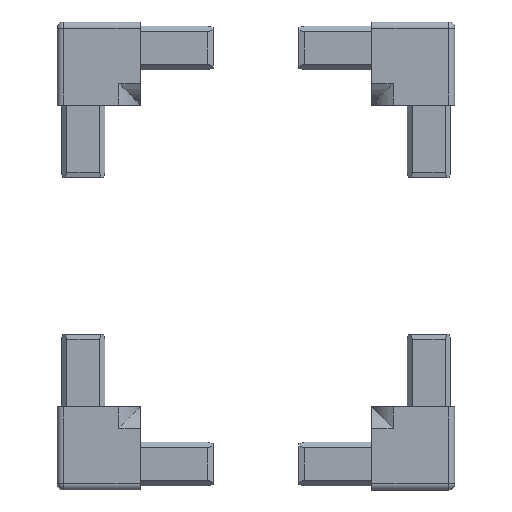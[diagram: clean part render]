
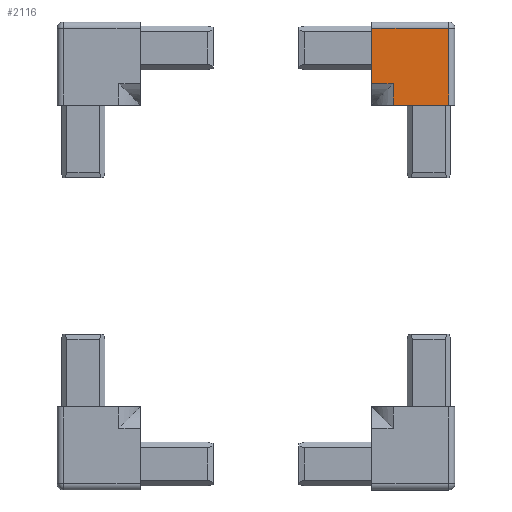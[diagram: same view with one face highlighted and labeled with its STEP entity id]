
A CAD part, left-side view. The second image highlights one B-rep face of the part: STEP entity #2116.
In plain terms, the highlighted planar face has unit normal (-1, 0, 0) as drawn and (0, 0, -1) by its records, which use the part's own axes.
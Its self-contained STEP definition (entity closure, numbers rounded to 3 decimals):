
#41 = CARTESIAN_POINT ( 'NONE',  ( -17.218, -27.5, -12.5 ) ) ;
#80 = VECTOR ( 'NONE', #2695, 1000. ) ;
#222 = DIRECTION ( 'NONE',  ( 0., -1., 0. ) ) ;
#283 = VERTEX_POINT ( 'NONE', #441 ) ;
#395 = VERTEX_POINT ( 'NONE', #3527 ) ;
#441 = CARTESIAN_POINT ( 'NONE',  ( -17.218, -17.218, -12.5 ) ) ;
#470 = LINE ( 'NONE', #2442, #1318 ) ;
#566 = EDGE_CURVE ( 'NONE', #3048, #1068, #3125, .T. ) ;
#589 = FACE_OUTER_BOUND ( 'NONE', #2476, .T. ) ;
#659 = CARTESIAN_POINT ( 'NONE',  ( -27.5, -17.218, -12.5 ) ) ;
#711 = VECTOR ( 'NONE', #1501, 1000. ) ;
#717 = DIRECTION ( 'NONE',  ( 1., 0., 0. ) ) ;
#829 = CARTESIAN_POINT ( 'NONE',  ( 12.5, 12.5, -12.5 ) ) ;
#866 = EDGE_CURVE ( 'NONE', #283, #1068, #2531, .T. ) ;
#886 = AXIS2_PLACEMENT_3D ( 'NONE', #829, #1120, #3113 ) ;
#959 = EDGE_CURVE ( 'NONE', #395, #2725, #2154, .T. ) ;
#1068 = VERTEX_POINT ( 'NONE', #659 ) ;
#1086 = CARTESIAN_POINT ( 'NONE',  ( -27.5, 9.5, -12.5 ) ) ;
#1087 = ORIENTED_EDGE ( 'NONE', *, *, #1560, .F. ) ;
#1120 = DIRECTION ( 'NONE',  ( 0., 0., 1. ) ) ;
#1146 = LINE ( 'NONE', #1996, #3164 ) ;
#1150 = CARTESIAN_POINT ( 'NONE',  ( 10.537, -17.218, -12.5 ) ) ;
#1214 = EDGE_CURVE ( 'NONE', #2992, #2725, #470, .T. ) ;
#1255 = VECTOR ( 'NONE', #222, 1000. ) ;
#1318 = VECTOR ( 'NONE', #717, 1000. ) ;
#1436 = ORIENTED_EDGE ( 'NONE', *, *, #566, .F. ) ;
#1488 = VECTOR ( 'NONE', #1666, 1000. ) ;
#1501 = DIRECTION ( 'NONE',  ( 0., -1., 0. ) ) ;
#1560 = EDGE_CURVE ( 'NONE', #283, #2992, #2638, .T. ) ;
#1666 = DIRECTION ( 'NONE',  ( -1., 0., 0. ) ) ;
#1675 = PLANE ( 'NONE',  #886 ) ;
#1699 = EDGE_CURVE ( 'NONE', #3048, #395, #1146, .T. ) ;
#1748 = ORIENTED_EDGE ( 'NONE', *, *, #1214, .F. ) ;
#1981 = DIRECTION ( 'NONE',  ( 1., 0., 0. ) ) ;
#1996 = CARTESIAN_POINT ( 'NONE',  ( 12.5, 9.5, -12.5 ) ) ;
#2116 = ADVANCED_FACE ( 'NONE', ( #589 ), #1675, .F. ) ;
#2154 = LINE ( 'NONE', #2407, #80 ) ;
#2315 = CARTESIAN_POINT ( 'NONE',  ( -27.5, -27.5, -12.5 ) ) ;
#2395 = ORIENTED_EDGE ( 'NONE', *, *, #959, .T. ) ;
#2407 = CARTESIAN_POINT ( 'NONE',  ( 9.5, -27.5, -12.5 ) ) ;
#2442 = CARTESIAN_POINT ( 'NONE',  ( 12.5, -27.5, -12.5 ) ) ;
#2476 = EDGE_LOOP ( 'NONE', ( #2634, #2395, #1748, #1087, #2904, #1436 ) ) ;
#2494 = CARTESIAN_POINT ( 'NONE',  ( -17.218, 10.537, -12.5 ) ) ;
#2531 = LINE ( 'NONE', #1150, #1488 ) ;
#2634 = ORIENTED_EDGE ( 'NONE', *, *, #1699, .T. ) ;
#2638 = LINE ( 'NONE', #2494, #1255 ) ;
#2695 = DIRECTION ( 'NONE',  ( 0., -1., 0. ) ) ;
#2725 = VERTEX_POINT ( 'NONE', #3480 ) ;
#2904 = ORIENTED_EDGE ( 'NONE', *, *, #866, .T. ) ;
#2992 = VERTEX_POINT ( 'NONE', #41 ) ;
#3048 = VERTEX_POINT ( 'NONE', #1086 ) ;
#3113 = DIRECTION ( 'NONE',  ( 1., 0., 0. ) ) ;
#3125 = LINE ( 'NONE', #2315, #711 ) ;
#3164 = VECTOR ( 'NONE', #1981, 1000. ) ;
#3480 = CARTESIAN_POINT ( 'NONE',  ( 9.5, -27.5, -12.5 ) ) ;
#3527 = CARTESIAN_POINT ( 'NONE',  ( 9.5, 9.5, -12.5 ) ) ;
